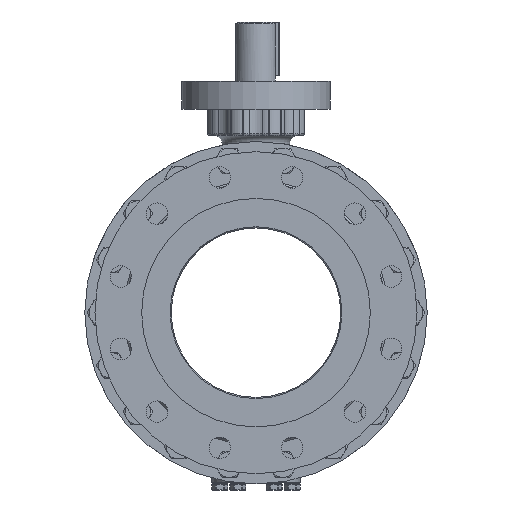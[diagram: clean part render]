
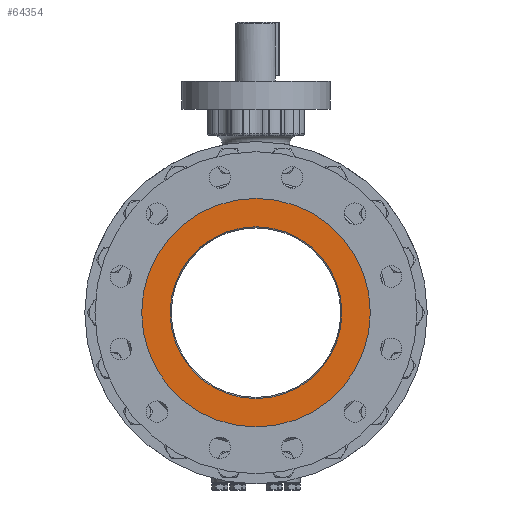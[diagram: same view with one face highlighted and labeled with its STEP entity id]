
A CAD part, left-side view. The second image highlights one B-rep face of the part: STEP entity #64354.
In plain terms, the highlighted planar face has unit normal (-1, 0, 0).
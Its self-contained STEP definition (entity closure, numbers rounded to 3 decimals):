
#2966=CARTESIAN_POINT('',(-251.,0.,0.));
#2967=DIRECTION('',(1.,0.,0.));
#2968=DIRECTION('',(0.,0.,1.));
#2969=AXIS2_PLACEMENT_3D('',#2966,#2967,#2968);
#2971=CARTESIAN_POINT('',(-251.,0.,0.));
#2972=DIRECTION('',(-1.,0.,0.));
#2973=DIRECTION('',(0.,0.,1.));
#2974=AXIS2_PLACEMENT_3D('',#2971,#2972,#2973);
#2976=CARTESIAN_POINT('',(-251.,0.,0.));
#2977=DIRECTION('',(1.,0.,0.));
#2978=DIRECTION('',(0.,0.,1.));
#2979=AXIS2_PLACEMENT_3D('',#2976,#2977,#2978);
#2981=CARTESIAN_POINT('',(-251.,0.,0.));
#2982=DIRECTION('',(-1.,0.,0.));
#2983=DIRECTION('',(0.,0.,1.));
#2984=AXIS2_PLACEMENT_3D('',#2981,#2982,#2983);
#54567=CARTESIAN_POINT('',(-251.,0.,101.35));
#54569=VERTEX_POINT('',#54567);
#54575=CARTESIAN_POINT('',(-251.,0.,-101.35));
#54577=VERTEX_POINT('',#54575);
#54694=CARTESIAN_POINT('',(-251.,0.,134.85));
#54696=VERTEX_POINT('',#54694);
#54698=CARTESIAN_POINT('',(-251.,0.,-134.85));
#54700=VERTEX_POINT('',#54698);
#64339=CARTESIAN_POINT('',(-251.,0.,0.));
#64340=DIRECTION('',(-1.,0.,0.));
#64341=DIRECTION('',(0.,0.,-1.));
#64342=AXIS2_PLACEMENT_3D('',#64339,#64340,#64341);
#64343=PLANE('',#64342);
#64344=ORIENTED_EDGE('',*,*,#64332,.F.);
#64345=ORIENTED_EDGE('',*,*,#64321,.T.);
#64346=EDGE_LOOP('',(#64344,#64345));
#64347=FACE_OUTER_BOUND('',#64346,.F.);
#64349=ORIENTED_EDGE('',*,*,#64348,.F.);
#64351=ORIENTED_EDGE('',*,*,#64350,.T.);
#64352=EDGE_LOOP('',(#64349,#64351));
#64353=FACE_BOUND('',#64352,.F.);
#64354=ADVANCED_FACE('',(#64347,#64353),#64343,.T.);
#2970=CIRCLE('',#2969,134.85);
#2975=CIRCLE('',#2974,134.85);
#2980=CIRCLE('',#2979,101.35);
#2985=CIRCLE('',#2984,101.35);
#64321=EDGE_CURVE('',#54696,#54700,#2970,.T.);
#64332=EDGE_CURVE('',#54696,#54700,#2975,.T.);
#64348=EDGE_CURVE('',#54569,#54577,#2980,.T.);
#64350=EDGE_CURVE('',#54569,#54577,#2985,.T.);
